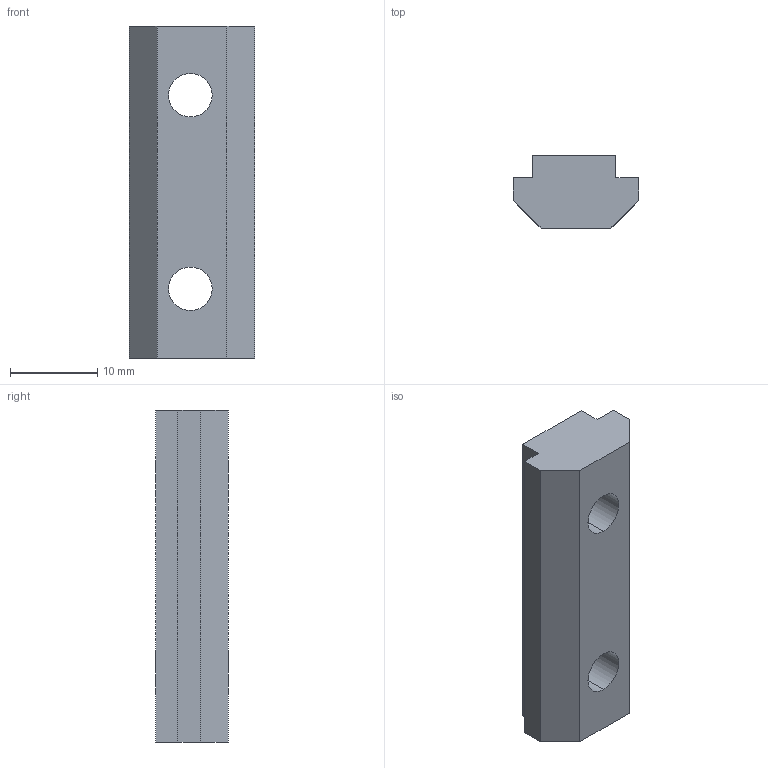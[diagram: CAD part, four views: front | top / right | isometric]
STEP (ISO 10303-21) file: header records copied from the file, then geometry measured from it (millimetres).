
FILE_DESCRIPTION((''),'2;1');
FILE_NAME('200626M','2023-02-28T',('jenni.wallner'),(''),'PRO/ENGINEER BY PARAMETRIC TECHNOLOGY CORPORATION, 2012420','PRO/ENGINEER BY PARAMETRIC TECHNOLOGY CORPORATION, 2012420','');
FILE_SCHEMA(('CONFIG_CONTROL_DESIGN'));
Length unit declared in the file: inch
Products named in the file (1): 200626M
Bounding box: 14.38 x 8.33 x 38.1 mm (x, y, z)
Volume: 3382.6 mm3; surface area: 1966.5 mm2
Topology: 1 solids, 1 shells, 16 faces, 42 edges, 28 vertices
Faces by surface type: plane 12, cylinder 4
Entity records: 542 total; most frequent: CARTESIAN_POINT 86, ORIENTED_EDGE 84, DIRECTION 82, EDGE_CURVE 42, VECTOR 34, LINE 34, VERTEX_POINT 28, AXIS2_PLACEMENT_3D 24
